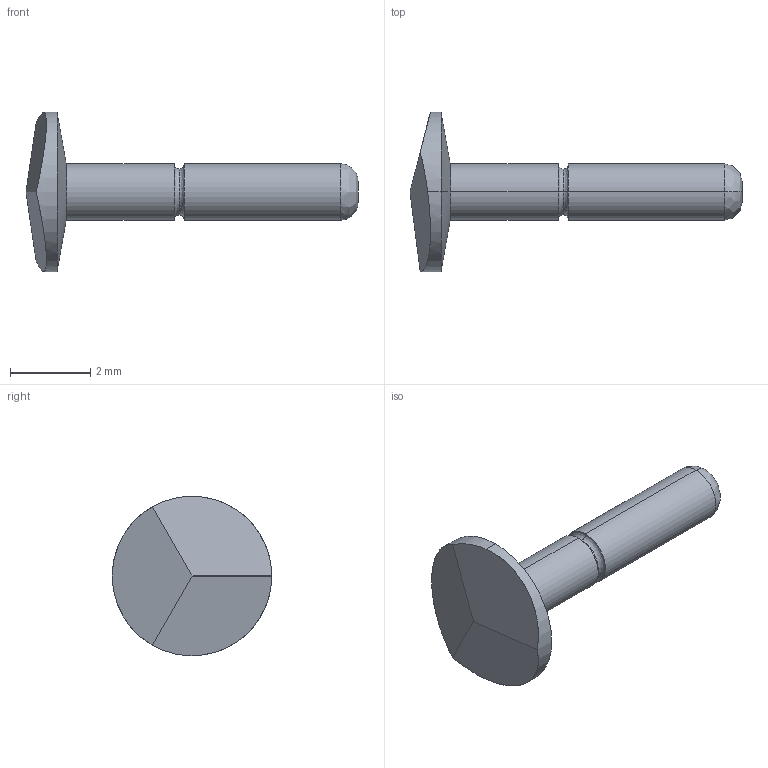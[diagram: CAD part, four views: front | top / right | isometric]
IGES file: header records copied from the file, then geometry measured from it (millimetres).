
Start section: SolidWorks IGES file using analytic representation for surfaces
Global section: file name: Z:\probe solid model mockups\Solidworks models\IGES Files\HPA-64\HPA-64-7 RECD.IGS; native system: SolidWorks 2006 by SolidWorks Corporation; preprocessor: SolidWorks 2006 by SolidWorks Corporation; author: tsakatani; date: 071220.100339; units: inch
Bounding box: 8.26 x 3.96 x 3.96 mm (x, y, z)
Surface area: 61.7 mm2 (no closed solid volume)
Topology: 0 solids, 0 shells, 19 faces, 154 edges, 154 vertices
Faces by surface type: bspline 11, revolution 8
